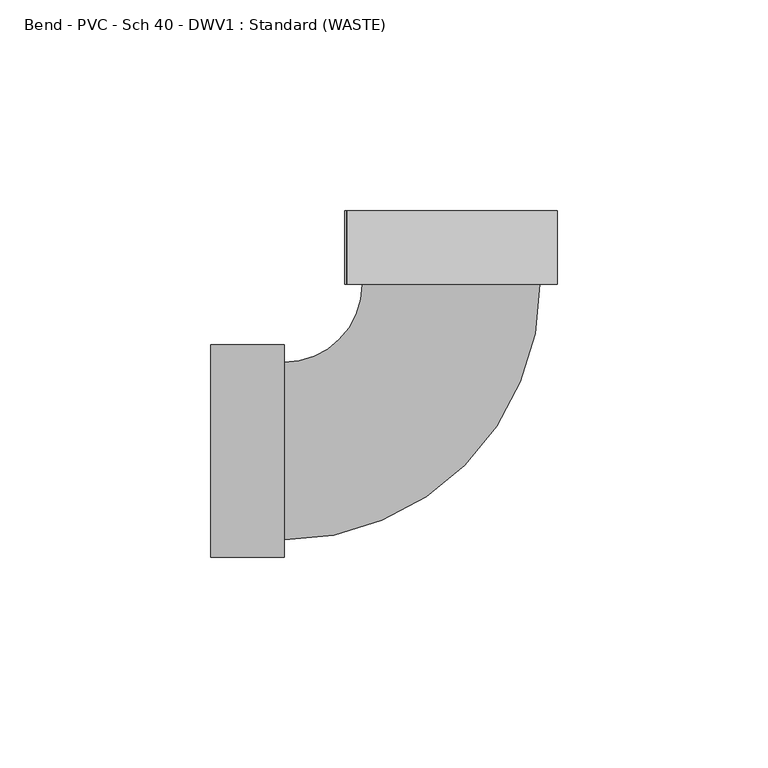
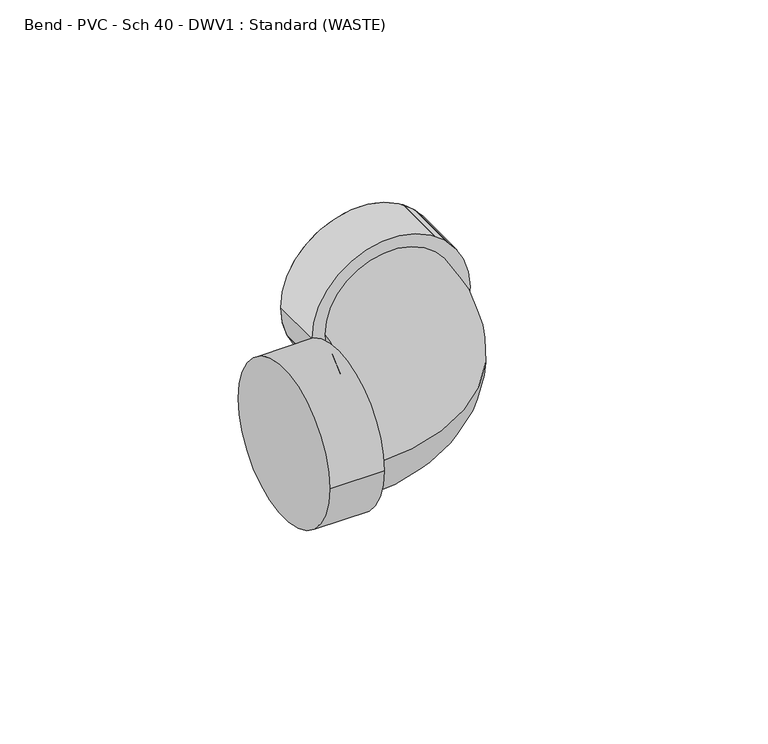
"""IFC4 building model written with IfcOpenShell, lengths in millimetres: pipe fitting geometry, Bend - PVC - Sch 40 - DWV1 : Standard (WASTE)."""

from ifc_helpers import new_model, si_unit, point, frame, origin, place, context, project, spatial, circle_curve, ellipse_curve, trimmed, source, transform, mapped, element, save
from ifc_brep_helpers import plane_surface, cylinder_surface, revolved_surface, advanced_brep


def bend_pvc_sch_40_dwv1_standard_waste_68b0ce14(model_context):
    return source(origin(), model_context, "Body", "AdvancedBrep", [
        advanced_brep(
        [(-57.15, -25.2349, 0.0), (-57.15, 25.2349, 0.0), (-39.7002, -25.2349, 0.0), (-39.7002, 25.2349, 0.0), (-39.7002, -21.082, 0.0), (-39.7002, 21.082, 0.0), (-21.082, 39.7002, 0.0), (21.082, 39.7002, 0.0), (25.2349, 39.7002, 0.0), (-25.2349, 39.7002, 0.0), (25.2349, 57.15, 0.0), (-25.2349, 57.15, 0.0)],
        [
            (0, 1, circle_curve(frame((-57.15, 0.0, 0.0), z_axis=(-1.0, 0.0, 0.0), x_axis=(0.0, 1.0, 0.0)), 25.2349)),
            (1, 0, circle_curve(frame((-57.15, 0.0, 0.0), z_axis=(-1.0, 0.0, 0.0), x_axis=(0.0, 1.0, 0.0)), 25.2349)),
            (2, 3, circle_curve(frame((-39.7002, 0.0, 0.0), z_axis=(1.0, 0.0, 0.0), x_axis=(0.0, 1.0, 0.0)), 25.2349)),
            (3, 2, circle_curve(frame((-39.7002, 0.0, 0.0), z_axis=(1.0, 0.0, 0.0), x_axis=(0.0, 1.0, 0.0)), 25.2349)),
            (4, 5, circle_curve(frame((-39.7002, 0.0, 0.0), z_axis=(-1.0, 0.0, 0.0), x_axis=(0.0, 1.0, 0.0)), 21.082)),
            (5, 4, circle_curve(frame((-39.7002, 0.0, 0.0), z_axis=(-1.0, 0.0, 0.0), x_axis=(0.0, 1.0, 0.0)), 21.082)),
            (0, 2),
            (3, 1),
            (6, 5, circle_curve(frame((-39.7002, 39.7002, 0.0), z_axis=(0.0, 0.0, -1.0), x_axis=(0.0, -1.0, 0.0)), 18.6182)),
            (4, 7, circle_curve(frame((-39.7002, 39.7002, 0.0), z_axis=(0.0, 0.0, 1.0), x_axis=(0.0, -1.0, 0.0)), 60.7822)),
            (7, 6, circle_curve(frame((0.0, 39.7002, 0.0), z_axis=(0.0, -1.0, 0.0), x_axis=(-1.0, 0.0, 0.0)), 21.082)),
            (6, 7, circle_curve(frame((0.0, 39.7002, 0.0), z_axis=(0.0, -1.0, 0.0), x_axis=(-1.0, 0.0, 0.0)), 21.082)),
            (8, 9, circle_curve(frame((0.0, 39.7002, 0.0), z_axis=(0.0, -1.0, 0.0), x_axis=(-1.0, 0.0, 0.0)), 25.2349)),
            (9, 8, circle_curve(frame((0.0, 39.7002, 0.0), z_axis=(0.0, -1.0, 0.0), x_axis=(-1.0, 0.0, 0.0)), 25.2349)),
            (10, 11, circle_curve(frame((0.0, 57.15, 0.0), z_axis=(0.0, 1.0, 0.0), x_axis=(-1.0, 0.0, 0.0)), 25.2349)),
            (11, 10, circle_curve(frame((0.0, 57.15, 0.0), z_axis=(0.0, 1.0, 0.0), x_axis=(-1.0, 0.0, 0.0)), 25.2349)),
            (8, 10),
            (11, 9),
        ],
        [
            plane_surface(frame((-57.15, 0.0, 0.0), z_axis=(-1.0, 0.0, 0.0), x_axis=(0.0, 0.0, 1.0))),
            plane_surface(frame((-39.7002, 0.0, 0.0), z_axis=(1.0, 0.0, 0.0), x_axis=(0.0, 0.0, 1.0))),
            cylinder_surface(frame((-57.15, 0.0, 0.0), z_axis=(-1.0, 0.0, 0.0), x_axis=(0.0, 1.0, 0.0)), 25.2349),
            revolved_surface(trimmed(ellipse_curve(frame((-39.7002, 0.0, 0.0), z_axis=(-1.0, 0.0, 0.0), x_axis=(0.0, 1.0, 0.0)), 21.082, 21.082), [point((-39.7002, -21.082, 0.0))], [point((-39.7002, 21.082, 0.0))], True, "CARTESIAN"), (-39.7002, 39.7002, 0.0), (0.0, 0.0, 1.0)),
            revolved_surface(trimmed(ellipse_curve(frame((-39.7002, 0.0, 0.0), z_axis=(-1.0, 0.0, 0.0), x_axis=(0.0, 1.0, 0.0)), 21.082, 21.082), [point((-39.7002, 21.082, 0.0))], [point((-39.7002, -21.082, 0.0))], True, "CARTESIAN"), (-39.7002, 39.7002, 0.0), (0.0, 0.0, 1.0)),
            plane_surface(frame((0.0, 39.7002, 0.0), z_axis=(0.0, -1.0, 0.0), x_axis=(0.0, 0.0, 1.0))),
            plane_surface(frame((0.0, 57.15, 0.0), z_axis=(0.0, 1.0, 0.0), x_axis=(0.0, 0.0, 1.0))),
            cylinder_surface(frame((0.0, 39.7002, 0.0), z_axis=(0.0, -1.0, 0.0), x_axis=(-1.0, 0.0, 0.0)), 25.2349),
        ],
        [
            (0, [[1, 2]]),
            (1, [[3, 4], [5, 6]]),
            (2, [[-1, 7, -4, 8]]),
            (2, [[-2, -8, -3, -7]]),
            (3, [[9, -5, 10, 11]]),
            (4, [[-9, 12, -10, -6]]),
            (5, [[13, 14], [-11, -12]]),
            (6, [[15, 16]]),
            (7, [[-13, 17, -16, 18]]),
            (7, [[-14, -18, -15, -17]]),
        ],
    ),
        advanced_brep(
        [(-57.15, -25.2349, 0.0), (-57.15, 25.2349, 0.0), (-39.7002, -25.2349, 0.0), (-39.7002, 25.2349, 0.0), (-39.7002, -21.082, 0.0), (-39.7002, 21.082, 0.0), (-25.2349, 57.15, 0.0), (25.2349, 57.15, 0.0), (-25.2349, 39.7002, 0.0), (25.2349, 39.7002, 0.0), (-21.082, 39.7002, 0.0), (21.082, 39.7002, 0.0)],
        [
            (0, 1, circle_curve(frame((-57.15, 0.0, 0.0), z_axis=(-1.0, 0.0, 0.0), x_axis=(0.0, 1.0, 0.0)), 25.2349)),
            (1, 0, circle_curve(frame((-57.15, 0.0, 0.0), z_axis=(-1.0, 0.0, 0.0), x_axis=(0.0, 1.0, 0.0)), 25.2349)),
            (2, 3, circle_curve(frame((-39.7002, 0.0, 0.0), z_axis=(1.0, 0.0, 0.0), x_axis=(0.0, 1.0, 0.0)), 25.2349)),
            (3, 2, circle_curve(frame((-39.7002, 0.0, 0.0), z_axis=(1.0, 0.0, 0.0), x_axis=(0.0, 1.0, 0.0)), 25.2349)),
            (4, 5, circle_curve(frame((-39.7002, 0.0, 0.0), z_axis=(-1.0, 0.0, 0.0), x_axis=(0.0, 1.0, 0.0)), 21.082)),
            (5, 4, circle_curve(frame((-39.7002, 0.0, 0.0), z_axis=(-1.0, 0.0, 0.0), x_axis=(0.0, 1.0, 0.0)), 21.082)),
            (0, 2),
            (3, 1),
            (6, 7, circle_curve(frame((0.0, 57.15, 0.0), z_axis=(0.0, 1.0, 0.0), x_axis=(1.0, 0.0, 0.0)), 25.2349)),
            (7, 6, circle_curve(frame((0.0, 57.15, 0.0), z_axis=(0.0, 1.0, 0.0), x_axis=(1.0, 0.0, 0.0)), 25.2349)),
            (8, 9, circle_curve(frame((0.0, 39.7002, 0.0), z_axis=(0.0, -1.0, 0.0), x_axis=(1.0, 0.0, 0.0)), 25.2349)),
            (9, 8, circle_curve(frame((0.0, 39.7002, 0.0), z_axis=(0.0, -1.0, 0.0), x_axis=(1.0, 0.0, 0.0)), 25.2349)),
            (10, 11, circle_curve(frame((0.0, 39.7002, 0.0), z_axis=(0.0, 1.0, 0.0), x_axis=(-1.0, 0.0, 0.0)), 21.082)),
            (11, 10, circle_curve(frame((0.0, 39.7002, 0.0), z_axis=(0.0, 1.0, 0.0), x_axis=(-1.0, 0.0, 0.0)), 21.082)),
            (6, 8),
            (9, 7),
            (10, 5, circle_curve(frame((-39.7002, 39.7002, 0.0), z_axis=(0.0, 0.0, -1.0), x_axis=(0.0, -1.0, 0.0)), 18.6182)),
            (4, 11, circle_curve(frame((-39.7002, 39.7002, 0.0), z_axis=(0.0, 0.0, 1.0), x_axis=(0.0, -1.0, 0.0)), 60.7822)),
        ],
        [
            plane_surface(frame((-57.15, 0.0, 0.0), z_axis=(-1.0, 0.0, 0.0), x_axis=(0.0, 0.0, 1.0))),
            plane_surface(frame((-39.7002, 0.0, 0.0), z_axis=(1.0, 0.0, 0.0), x_axis=(0.0, 0.0, 1.0))),
            cylinder_surface(frame((-57.15, 0.0, 0.0), z_axis=(-1.0, 0.0, 0.0), x_axis=(0.0, 1.0, 0.0)), 25.2349),
            plane_surface(frame((0.0, 57.15, 0.0), z_axis=(0.0, 1.0, 0.0), x_axis=(0.0, 0.0, 1.0))),
            plane_surface(frame((0.0, 39.7002, 0.0), z_axis=(0.0, -1.0, 0.0), x_axis=(0.0, 0.0, 1.0))),
            cylinder_surface(frame((0.0, 57.15, 0.0), z_axis=(0.0, 1.0, 0.0), x_axis=(1.0, 0.0, 0.0)), 25.2349),
            revolved_surface(trimmed(ellipse_curve(frame((-39.7002, 0.0, 0.0), z_axis=(-1.0, 0.0, 0.0), x_axis=(0.0, 1.0, 0.0)), 21.082, 21.082), [point((-39.7002, -21.082, 0.0))], [point((-39.7002, 21.082, 0.0))], True, "CARTESIAN"), (-39.7002, 39.7002, 0.0), (0.0, 0.0, 1.0)),
            revolved_surface(trimmed(ellipse_curve(frame((-39.7002, 0.0, 0.0), z_axis=(-1.0, 0.0, 0.0), x_axis=(0.0, 1.0, 0.0)), 21.082, 21.082), [point((-39.7002, 21.082, 0.0))], [point((-39.7002, -21.082, 0.0))], True, "CARTESIAN"), (-39.7002, 39.7002, 0.0), (0.0, 0.0, 1.0)),
        ],
        [
            (0, [[1, 2]]),
            (1, [[3, 4], [5, 6]]),
            (2, [[-1, 7, -4, 8]]),
            (2, [[-2, -8, -3, -7]]),
            (3, [[9, 10]]),
            (4, [[11, 12], [13, 14]]),
            (5, [[-9, 15, -12, 16]]),
            (5, [[-10, -16, -11, -15]]),
            (6, [[17, -5, 18, -13]]),
            (7, [[-17, -14, -18, -6]]),
        ],
    ),
    ])


if __name__ == "__main__":
    model = new_model("IFC4")
    model_context = context("Model", 3, world=origin())
    ifc_project = project(units=[si_unit("LENGTHUNIT", "METRE", prefix="MILLI")], contexts=[model_context])
    site = spatial("IfcSite", under=ifc_project)
    building = spatial("IfcBuilding", under=site)
    placement = place(None, origin())
    bend_pvc_sch_40_dwv1_standard_waste_shape = bend_pvc_sch_40_dwv1_standard_waste_68b0ce14(model_context)
    element("IfcPipeFitting", 1, ObjectType="Bend - PVC - Sch 40 - DWV1 : Standard (WASTE)", at=placement, inside=building, context=model_context, shape_type="MappedRepresentation", body=[
        mapped(bend_pvc_sch_40_dwv1_standard_waste_shape, transform((0.0, 0.0, 0.0), x_axis=(1.0, 0.0, 0.0), y_axis=(0.0, 1.0, 0.0), z_axis=(0.0, 0.0, 1.0))),
    ])
    save(model, "model.ifc")
